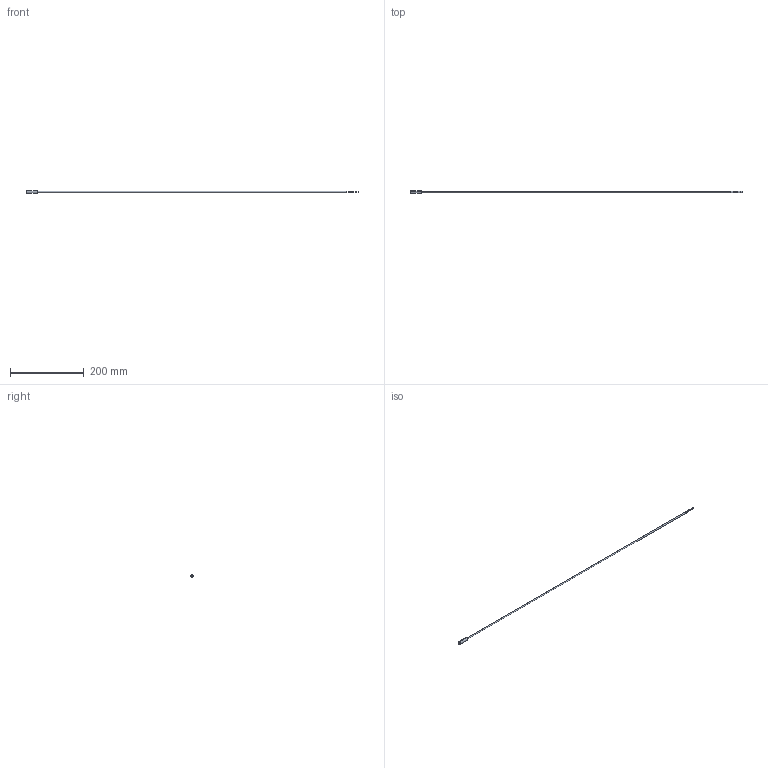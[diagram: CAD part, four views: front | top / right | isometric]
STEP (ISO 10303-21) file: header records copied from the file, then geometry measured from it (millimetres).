
FILE_DESCRIPTION (( 'STEP AP214' ), '1' );
FILE_NAME ('NTCACAPE3C90191.STEP', '2014-09-08T10:00:53', ( 'Vishay Intertechnology, Inc.' ), ( 'Vishay Intertechnology, Inc.' ), 'SwSTEP 2.0', 'SolidWorks 2014', '' );
FILE_SCHEMA (( 'AUTOMOTIVE_DESIGN' ));
Length unit declared in the file: millimetre
Products named in the file (1): NTCACAPE3C90191
Bounding box: 900 x 8 x 8 mm (x, y, z)
Volume: 12107.6 mm3; surface area: 11615.8 mm2
Topology: 3 solids, 3 shells, 31 faces, 64 edges, 42 vertices
Faces by surface type: cylinder 16, plane 9, bspline 4, torus 2
Entity records: 1026 total; most frequent: CARTESIAN_POINT 290, DIRECTION 160, ORIENTED_EDGE 128, AXIS2_PLACEMENT_3D 72, EDGE_CURVE 64, CIRCLE 44, VERTEX_POINT 42, EDGE_LOOP 34
